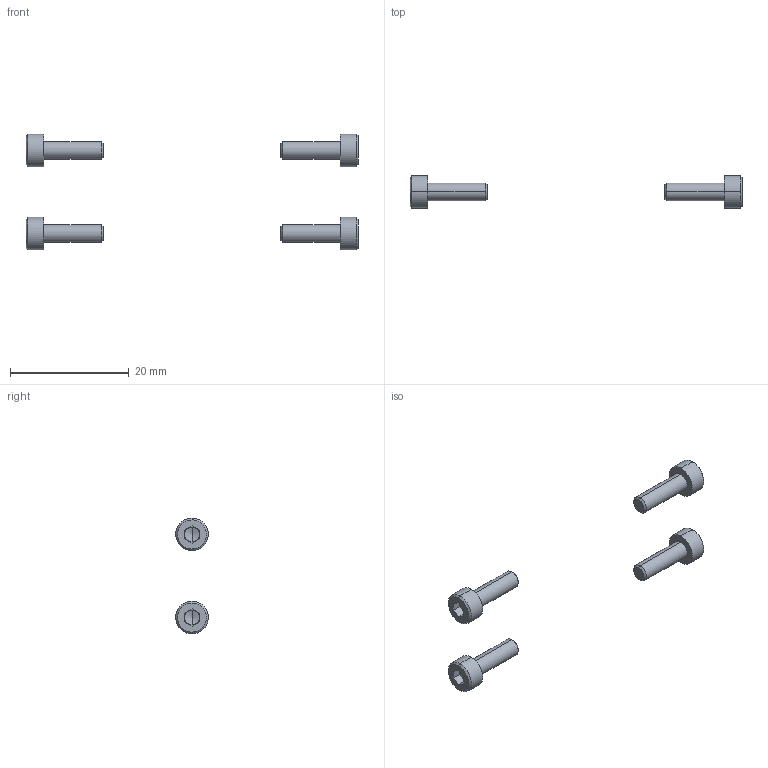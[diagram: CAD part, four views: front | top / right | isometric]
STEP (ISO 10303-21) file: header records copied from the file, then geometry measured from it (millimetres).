
FILE_DESCRIPTION(/* description */ (''),/* implementation_level */ '2;1');
FILE_NAME(/* name */ '7.x-cart#7.8#CB3-10',/* time_stamp */ '2014-12-01T20:17:45+01:00',/* author */ (''),/* organization */ (''),/* preprocessor_version */ 'ST-DEVELOPER v14',/* originating_system */ '',/* authorisation */ '');
FILE_SCHEMA (('AUTOMOTIVE_DESIGN'));
Length unit declared in the file: millimetre
Products named in the file (2): Document; screw DIN912-like, M3x10
Assembly tree (2 placements, depth 2):
  Document
    screw DIN912-like, M3x10  x2
Bounding box: 56 x 5.49 x 19.52 mm (x, y, z)
Volume: 529.8 mm3; surface area: 807.4 mm2
Topology: 4 solids, 4 shells, 100 faces, 224 edges, 132 vertices
Faces by surface type: plane 60, bspline 40
Entity records: 4125 total; most frequent: CARTESIAN_POINT 1889, B_SPLINE_CURVE_WITH_KNOTS 378, ORIENTED_EDGE 324, PCURVE 324, DEFINITIONAL_REPRESENTATION 324, SURFACE_CURVE 162, EDGE_CURVE 162, VERTEX_POINT 99
